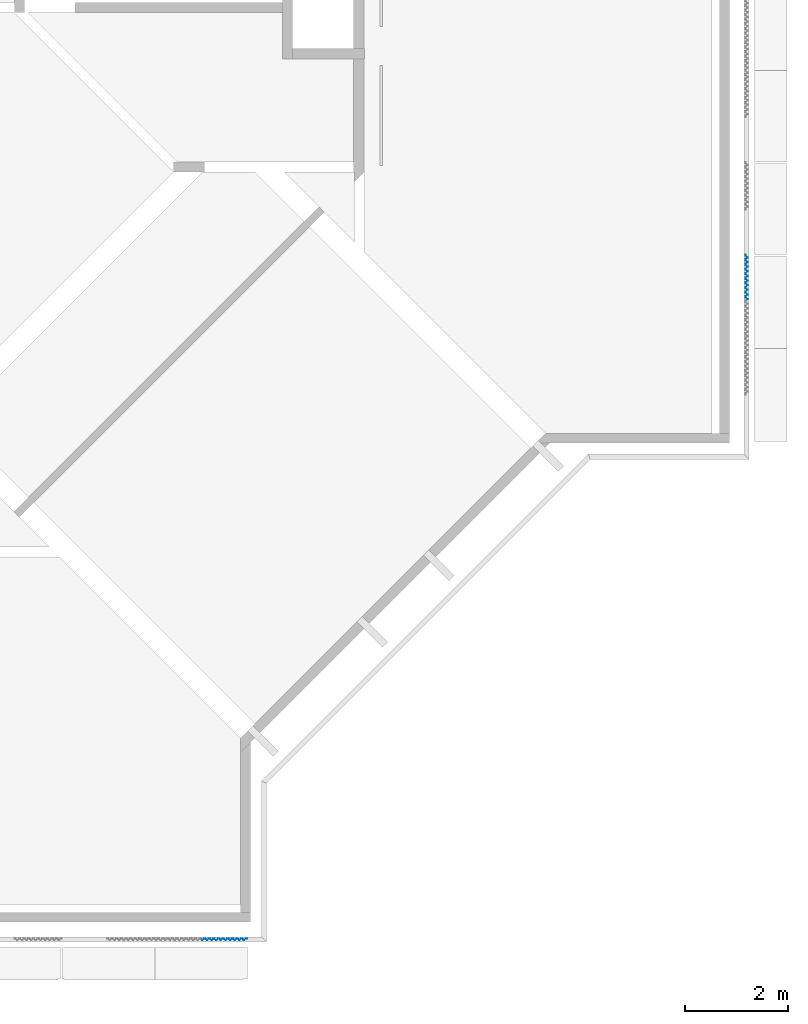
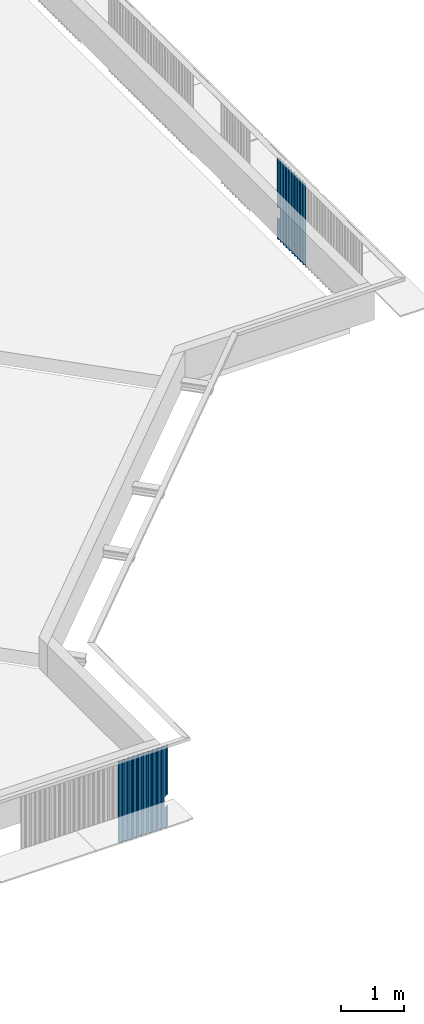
# One storey, part 26 of 37: 2 walls.
"""IFC4X3_ADD2 building model written with IfcOpenShell, lengths in millimetres."""

from ifc_helpers import new_model, si_unit, direction, frame, origin_with_axes, place, context, subcontext, project, spatial, polygons, element, save


model = new_model("IFC4X3_ADD2")

# Units and contexts
model_context = context("Model", 3, precision=1e-05, world=origin_with_axes(), true_north=direction((0.0, 1.0)))
body_context = subcontext(model_context, "Body", "Model", "MODEL_VIEW")
ifc_project = project(units=[si_unit("LENGTHUNIT", "METRE", prefix="MILLI"), si_unit("AREAUNIT", "SQUARE_METRE"), si_unit("VOLUMEUNIT", "CUBIC_METRE"), si_unit("PLANEANGLEUNIT", "RADIAN"), si_unit("TIMEUNIT", "SECOND"), si_unit("MASSUNIT", "GRAM")], contexts=[model_context])

# Site, building, storey
site_placement = place(None, origin_with_axes())
site = spatial("IfcSite", under=ifc_project, at=site_placement, Name="Site", CompositionType="ELEMENT")
building_placement = place(site_placement, origin_with_axes())
building = spatial("IfcBuilding", under=site, at=building_placement, Name="IFC Building Story")
storey_placement = place(building_placement, frame((0.0, 0.0, 14400.0), z_axis=(0.0, 0.0, 1.0), x_axis=(1.0, 0.0, 0.0)))
storey = spatial("IfcBuildingStorey", under=building, at=storey_placement, Name="040", Elevation=14400.0)

# Walls
wall_1_placement = place(storey_placement, frame((0.0, 0.0, -14400.0), z_axis=(0.0, 0.0, 1.0), x_axis=(1.0, 0.0, 0.0)))
element("IfcWall", 1, at=wall_1_placement, inside=storey, Name="BB_07.10_Gevelbekleding_PuntProfiel, 900 mm, console rechts_GMO:900 x 1600 mm", ObjectType="BB_07.10_Gevelbekleding_PuntProfiel, 900 mm, console rechts_GMO:900 x 1600 mm", PredefinedType="NOTDEFINED", context=body_context, shape_type="Tessellation", body=[
    polygons([(435.0000000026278, 12820.00000000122, 14060.0), (433.5857864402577, 12820.00000000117, 14060.0), (448.5857864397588, 12835.0000000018, 14060.0), (415.0000000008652, 12868.58578643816, 14060.0), (415.0000000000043, 12891.41421356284, 14060.0), (416.000000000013, 12891.0000000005, 14060.0), (416.0000000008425, 12869.00000000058, 14060.0), (450.0000000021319, 12835.00000000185, 14060.0), (435.0000000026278, 12820.00000000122, 13860.0), (433.5857864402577, 12820.00000000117, 13860.0), (450.0000000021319, 12835.00000000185, 13860.0), (416.0000000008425, 12869.00000000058, 13860.0), (416.0000000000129, 12891.0000000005, 13860.0), (415.0000000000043, 12891.41421356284, 13860.0), (415.0000000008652, 12868.58578643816, 13860.0), (448.5857864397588, 12835.0000000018, 13860.0), (416.0000000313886, 12059.00000000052, 15040.0), (416.000000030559, 12081.00000000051, 15040.0), (450.000000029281, 12115.00000000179, 15040.0), (416.0000000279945, 12149.00000000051, 15040.0), (416.0000000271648, 12171.00000000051, 15040.0), (450.0000000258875, 12205.0000000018, 15040.0), (416.0000000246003, 12239.00000000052, 15040.0), (416.0000000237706, 12261.00000000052, 15040.0), (450.0000000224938, 12295.00000000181, 15040.0), (416.0000000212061, 12329.00000000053, 15040.0), (416.0000000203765, 12351.00000000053, 15040.0), (450.0000000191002, 12385.00000000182, 15040.0), (416.0000000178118, 12419.00000000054, 15040.0), (416.0000000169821, 12441.00000000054, 15040.0), (450.0000000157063, 12475.00000000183, 15040.0), (416.0000000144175, 12509.00000000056, 15040.0), (416.0000000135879, 12531.00000000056, 15040.0), (450.0000000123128, 12565.00000000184, 15040.0), (416.0000000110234, 12599.00000000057, 15040.0), (416.0000000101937, 12621.00000000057, 15040.0), (450.0000000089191, 12655.00000000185, 15040.0), (416.0000000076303, 12689.00000000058, 15040.0), (416.0000000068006, 12711.00000000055, 15040.0), (450.0000000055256, 12745.00000000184, 15040.0), (416.0000000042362, 12779.00000000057, 15040.0), (416.0000000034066, 12801.00000000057, 15040.0), (450.000000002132, 12835.00000000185, 15040.0), (416.0000000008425, 12869.00000000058, 15040.0), (416.000000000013, 12891.0000000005, 15040.0), (415.0000000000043, 12891.41421356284, 15040.0), (415.0000000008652, 12868.58578643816, 15040.0), (448.5857864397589, 12835.0000000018, 15040.0), (415.0000000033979, 12801.4142135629, 15040.0), (415.0000000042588, 12778.58578643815, 15040.0), (448.5857864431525, 12745.00000000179, 15040.0), (415.0000000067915, 12711.41421356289, 15040.0), (415.0000000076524, 12688.58578643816, 15040.0), (448.5857864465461, 12655.0000000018, 15040.0), (415.0000000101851, 12621.4142135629, 15040.0), (415.000000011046, 12598.58578643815, 15040.0), (448.5857864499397, 12565.00000000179, 15040.0), (415.0000000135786, 12531.41421356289, 15040.0), (415.0000000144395, 12508.58578643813, 15040.0), (448.5857864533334, 12475.00000000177, 15040.0), (415.0000000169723, 12441.41421356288, 15040.0), (415.0000000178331, 12418.58578643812, 15040.0), (448.5857864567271, 12385.00000000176, 15040.0), (415.000000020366, 12351.41421356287, 15040.0), (415.0000000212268, 12328.58578643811, 15040.0), (448.5857864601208, 12295.00000000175, 15040.0), (415.0000000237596, 12261.41421356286, 15040.0), (415.0000000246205, 12238.58578643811, 15040.0), (448.5857864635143, 12205.00000000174, 15040.0), (415.0000000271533, 12171.41421356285, 15040.0), (415.000000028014, 12148.5857864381, 15040.0), (448.585786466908, 12115.00000000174, 15040.0), (415.0000000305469, 12081.41421356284, 15040.0), (415.0000000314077, 12058.5857864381, 15040.0), (448.5857864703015, 12025.00000000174, 15040.0), (415.0000000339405, 11991.41421356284, 15040.0), (415.0000000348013, 11968.5857864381, 15040.0), (416.0000000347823, 11969.00000000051, 15040.0), (416.0000000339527, 11991.00000000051, 15040.0), (450.0000000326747, 12025.00000000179, 15040.0), (416.0000000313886, 12059.00000000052, 13440.0), (450.0000000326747, 12025.00000000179, 13440.0), (416.0000000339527, 11991.00000000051, 13440.0), (416.0000000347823, 11969.00000000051, 13440.0), (415.0000000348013, 11968.5857864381, 13440.0), (415.0000000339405, 11991.41421356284, 13440.0), (448.5857864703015, 12025.00000000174, 13440.0), (415.0000000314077, 12058.5857864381, 13440.0), (415.0000000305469, 12081.41421356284, 13440.0), (448.585786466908, 12115.00000000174, 13440.0), (415.000000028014, 12148.5857864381, 13440.0), (415.0000000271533, 12171.41421356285, 13440.0), (448.5857864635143, 12205.00000000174, 13440.0), (415.0000000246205, 12238.58578643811, 13440.0), (415.0000000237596, 12261.41421356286, 13440.0), (448.5857864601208, 12295.00000000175, 13440.0), (415.0000000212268, 12328.58578643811, 13440.0), (415.000000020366, 12351.41421356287, 13440.0), (448.5857864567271, 12385.00000000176, 13440.0), (415.0000000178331, 12418.58578643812, 13440.0), (415.0000000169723, 12441.41421356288, 13440.0), (448.5857864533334, 12475.00000000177, 13440.0), (415.0000000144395, 12508.58578643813, 13440.0), (415.0000000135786, 12531.41421356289, 13440.0), (448.5857864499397, 12565.00000000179, 13440.0), (415.000000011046, 12598.58578643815, 13440.0), (415.0000000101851, 12621.4142135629, 13440.0), (448.5857864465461, 12655.0000000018, 13440.0), (415.0000000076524, 12688.58578643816, 13440.0), (415.0000000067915, 12711.41421356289, 13440.0), (448.5857864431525, 12745.00000000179, 13440.0), (415.0000000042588, 12778.58578643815, 13440.0), (415.0000000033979, 12801.4142135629, 13440.0), (448.5857864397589, 12835.0000000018, 13440.0), (415.0000000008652, 12868.58578643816, 13440.0), (415.0000000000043, 12891.41421356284, 13440.0), (416.000000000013, 12891.0000000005, 13440.0), (416.0000000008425, 12869.00000000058, 13440.0), (450.000000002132, 12835.00000000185, 13440.0), (416.0000000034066, 12801.00000000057, 13440.0), (416.0000000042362, 12779.00000000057, 13440.0), (450.0000000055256, 12745.00000000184, 13440.0), (416.0000000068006, 12711.00000000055, 13440.0), (416.0000000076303, 12689.00000000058, 13440.0), (450.0000000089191, 12655.00000000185, 13440.0), (416.0000000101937, 12621.00000000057, 13440.0), (416.0000000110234, 12599.00000000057, 13440.0), (450.0000000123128, 12565.00000000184, 13440.0), (416.0000000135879, 12531.00000000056, 13440.0), (416.0000000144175, 12509.00000000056, 13440.0), (450.0000000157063, 12475.00000000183, 13440.0), (416.0000000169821, 12441.00000000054, 13440.0), (416.0000000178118, 12419.00000000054, 13440.0), (450.0000000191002, 12385.00000000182, 13440.0), (416.0000000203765, 12351.00000000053, 13440.0), (416.0000000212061, 12329.00000000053, 13440.0), (450.0000000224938, 12295.00000000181, 13440.0), (416.0000000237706, 12261.00000000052, 13440.0), (416.0000000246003, 12239.00000000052, 13440.0), (450.0000000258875, 12205.0000000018, 13440.0), (416.0000000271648, 12171.00000000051, 13440.0), (416.0000000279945, 12149.00000000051, 13440.0), (450.000000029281, 12115.00000000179, 13440.0), (416.000000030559, 12081.00000000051, 13440.0)], [[[7, 8, 3]], [[7, 3, 4]], [[4, 5, 6]], [[4, 6, 7]], [[8, 1, 2]], [[8, 2, 3]], [[2, 1, 9, 10]], [[12, 13, 14]], [[12, 14, 15]], [[16, 10, 9]], [[16, 9, 11]], [[11, 12, 15]], [[11, 15, 16]], [[44, 45, 46]], [[44, 46, 47]], [[48, 49, 42]], [[48, 42, 43]], [[43, 44, 47]], [[43, 47, 48]], [[49, 50, 41]], [[49, 41, 42]], [[51, 52, 39]], [[51, 39, 40]], [[40, 41, 50]], [[40, 50, 51]], [[52, 53, 38]], [[52, 38, 39]], [[54, 55, 36]], [[54, 36, 37]], [[37, 38, 53]], [[37, 53, 54]], [[55, 56, 35]], [[55, 35, 36]], [[57, 58, 33]], [[57, 33, 34]], [[34, 35, 56]], [[34, 56, 57]], [[58, 59, 32]], [[58, 32, 33]], [[60, 61, 30]], [[60, 30, 31]], [[31, 32, 59]], [[31, 59, 60]], [[61, 62, 29]], [[61, 29, 30]], [[63, 64, 27]], [[63, 27, 28]], [[28, 29, 62]], [[28, 62, 63]], [[64, 65, 26]], [[64, 26, 27]], [[66, 67, 24]], [[66, 24, 25]], [[25, 26, 65]], [[25, 65, 66]], [[67, 68, 23]], [[67, 23, 24]], [[69, 70, 21]], [[69, 21, 22]], [[22, 23, 68]], [[22, 68, 69]], [[70, 71, 20]], [[70, 20, 21]], [[72, 73, 18]], [[72, 18, 19]], [[19, 20, 71]], [[19, 71, 72]], [[73, 74, 17]], [[73, 17, 18]], [[79, 80, 75]], [[79, 75, 76]], [[76, 77, 78]], [[76, 78, 79]], [[80, 17, 74]], [[80, 74, 75]], [[83, 84, 85]], [[83, 85, 86]], [[87, 88, 81]], [[87, 81, 82]], [[82, 83, 86]], [[82, 86, 87]], [[118, 119, 114]], [[118, 114, 115]], [[115, 116, 117]], [[115, 117, 118]], [[121, 122, 111]], [[121, 111, 112]], [[112, 113, 120]], [[112, 120, 121]], [[113, 114, 119]], [[113, 119, 120]], [[124, 125, 108]], [[124, 108, 109]], [[109, 110, 123]], [[109, 123, 124]], [[110, 111, 122]], [[110, 122, 123]], [[127, 128, 105]], [[127, 105, 106]], [[106, 107, 126]], [[106, 126, 127]], [[107, 108, 125]], [[107, 125, 126]], [[130, 131, 102]], [[130, 102, 103]], [[103, 104, 129]], [[103, 129, 130]], [[104, 105, 128]], [[104, 128, 129]], [[133, 134, 99]], [[133, 99, 100]], [[100, 101, 132]], [[100, 132, 133]], [[101, 102, 131]], [[101, 131, 132]], [[136, 137, 96]], [[136, 96, 97]], [[97, 98, 135]], [[97, 135, 136]], [[98, 99, 134]], [[98, 134, 135]], [[139, 140, 93]], [[139, 93, 94]], [[94, 95, 138]], [[94, 138, 139]], [[95, 96, 137]], [[95, 137, 138]], [[142, 143, 90]], [[142, 90, 91]], [[91, 92, 141]], [[91, 141, 142]], [[92, 93, 140]], [[92, 140, 141]], [[144, 81, 88]], [[144, 88, 89]], [[89, 90, 143]], [[89, 143, 144]], [[18, 17, 81, 144]], [[19, 18, 144, 143]], [[20, 19, 143, 142]], [[21, 20, 142, 141]], [[22, 21, 141, 140]], [[23, 22, 140, 139]], [[24, 23, 139, 138]], [[25, 24, 138, 137]], [[26, 25, 137, 136]], [[27, 26, 136, 135]], [[28, 27, 135, 134]], [[29, 28, 134, 133]], [[30, 29, 133, 132]], [[31, 30, 132, 131]], [[32, 31, 131, 130]], [[33, 32, 130, 129]], [[34, 33, 129, 128]], [[35, 34, 128, 127]], [[36, 35, 127, 126]], [[37, 36, 126, 125]], [[38, 37, 125, 124]], [[54, 53, 109, 108]], [[55, 54, 108, 107]], [[56, 55, 107, 106]], [[57, 56, 106, 105]], [[58, 57, 105, 104]], [[59, 58, 104, 103]], [[60, 59, 103, 102]], [[61, 60, 102, 101]], [[62, 61, 101, 100]], [[63, 62, 100, 99]], [[64, 63, 99, 98]], [[65, 64, 98, 97]], [[66, 65, 97, 96]], [[67, 66, 96, 95]], [[68, 67, 95, 94]], [[69, 68, 94, 93]], [[70, 69, 93, 92]], [[71, 70, 92, 91]], [[72, 71, 91, 90]], [[73, 72, 90, 89]], [[74, 73, 89, 88]], [[80, 79, 83, 82]], [[17, 80, 82, 81]], [[39, 38, 124, 123]], [[40, 39, 123, 122]], [[41, 40, 122, 121]], [[42, 41, 121, 120]], [[1, 8, 43]], [[1, 43, 42]], [[42, 9, 1]], [[42, 120, 9]], [[120, 119, 11]], [[120, 11, 9]], [[44, 43, 8, 7]], [[45, 44, 7, 6]], [[47, 46, 5, 4]], [[48, 47, 4, 3]], [[10, 16, 114]], [[10, 114, 113]], [[113, 2, 10]], [[2, 113, 49]], [[49, 48, 2]], [[48, 3, 2]], [[50, 49, 113, 112]], [[51, 50, 112, 111]], [[52, 51, 111, 110]], [[53, 52, 110, 109]], [[75, 74, 88, 87]], [[76, 75, 87, 86]], [[46, 45, 6, 5]], [[77, 76, 86, 85]], [[78, 77, 85, 84]], [[79, 78, 84, 83]], [[117, 116, 14, 13]], [[115, 114, 16, 15]], [[116, 115, 15, 14]], [[118, 117, 13, 12]], [[119, 118, 12, 11]]]),
])
wall_2_placement = place(storey_placement, frame((0.0, 0.0, -14400.0), z_axis=(0.0, 0.0, 1.0), x_axis=(1.0, 0.0, 0.0)))
element("IfcWall", 2, at=wall_2_placement, inside=storey, Name="BB_07.10_Gevelbekleding_PuntProfiel, 900 mm, console rechts_GMO:900 x 1600 mm", ObjectType="BB_07.10_Gevelbekleding_PuntProfiel, 900 mm, console rechts_GMO:900 x 1600 mm", PredefinedType="NOTDEFINED", context=body_context, shape_type="Tessellation", body=[
    polygons([(-9360.000000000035, -434.9999999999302, 14060.0), (-9360.000000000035, -433.5857864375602, 14060.0), (-9344.999999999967, -448.585786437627, 14060.0), (-9311.414213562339, -414.9999999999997, 14060.0), (-9288.585786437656, -414.9999999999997, 14060.0), (-9289.000000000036, -415.9999999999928, 14060.0), (-9310.999999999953, -415.9999999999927, 14060.0), (-9344.999999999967, -449.9999999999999, 14060.0), (-9360.000000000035, -434.9999999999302, 13860.0), (-9360.000000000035, -433.5857864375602, 13860.0), (-9344.999999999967, -449.9999999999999, 13860.0), (-9310.999999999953, -415.9999999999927, 13860.0), (-9289.000000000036, -415.9999999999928, 13860.0), (-9288.585786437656, -414.9999999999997, 13860.0), (-9311.414213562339, -414.9999999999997, 13860.0), (-9344.999999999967, -448.585786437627, 13860.0), (-10121.00000000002, -415.9999999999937, 15040.0), (-10099.00000000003, -415.9999999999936, 15040.0), (-10065.00000000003, -449.9999999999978, 15040.0), (-10031.00000000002, -415.9999999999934, 15040.0), (-10009.00000000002, -415.9999999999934, 15040.0), (-9975.000000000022, -449.9999999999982, 15040.0), (-9941.000000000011, -415.9999999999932, 15040.0), (-9919.000000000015, -415.9999999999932, 15040.0), (-9885.000000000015, -449.9999999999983, 15040.0), (-9851.000000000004, -415.9999999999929, 15040.0), (-9829.000000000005, -415.9999999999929, 15040.0), (-9795.000000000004, -449.9999999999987, 15040.0), (-9760.99999999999, -415.9999999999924, 15040.0), (-9738.999999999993, -415.9999999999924, 15040.0), (-9704.999999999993, -449.9999999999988, 15040.0), (-9670.99999999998, -415.9999999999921, 15040.0), (-9648.999999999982, -415.9999999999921, 15040.0), (-9614.99999999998, -449.9999999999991, 15040.0), (-9580.999999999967, -415.9999999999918, 15040.0), (-9558.999999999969, -415.9999999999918, 15040.0), (-9524.999999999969, -449.9999999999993, 15040.0), (-9490.999999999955, -415.9999999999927, 15040.0), (-9468.999999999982, -415.9999999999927, 15040.0), (-9434.999999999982, -449.9999999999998, 15040.0), (-9400.999999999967, -415.9999999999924, 15040.0), (-9378.999999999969, -415.9999999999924, 15040.0), (-9344.999999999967, -449.9999999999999, 15040.0), (-9310.999999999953, -415.9999999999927, 15040.0), (-9289.000000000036, -415.9999999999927, 15040.0), (-9288.585786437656, -414.9999999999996, 15040.0), (-9311.414213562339, -414.9999999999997, 15040.0), (-9344.999999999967, -448.585786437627, 15040.0), (-9378.585786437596, -414.9999999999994, 15040.0), (-9401.414213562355, -414.9999999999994, 15040.0), (-9434.999999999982, -448.5857864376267, 15040.0), (-9468.58578643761, -414.9999999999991, 15040.0), (-9491.414213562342, -414.9999999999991, 15040.0), (-9524.999999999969, -448.5857864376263, 15040.0), (-9558.585786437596, -414.9999999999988, 15040.0), (-9581.414213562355, -414.9999999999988, 15040.0), (-9614.99999999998, -448.5857864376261, 15040.0), (-9648.585786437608, -414.9999999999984, 15040.0), (-9671.414213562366, -414.9999999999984, 15040.0), (-9704.999999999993, -448.5857864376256, 15040.0), (-9738.58578643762, -414.9999999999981, 15040.0), (-9761.414213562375, -414.9999999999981, 15040.0), (-9795.000000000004, -448.5857864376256, 15040.0), (-9828.58578643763, -414.999999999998, 15040.0), (-9851.414213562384, -414.999999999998, 15040.0), (-9885.000000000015, -448.5857864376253, 15040.0), (-9918.58578643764, -414.9999999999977, 15040.0), (-9941.414213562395, -414.9999999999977, 15040.0), (-9975.000000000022, -448.5857864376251, 15040.0), (-10008.58578643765, -414.9999999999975, 15040.0), (-10031.4142135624, -414.9999999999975, 15040.0), (-10065.00000000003, -448.5857864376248, 15040.0), (-10098.58578643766, -414.9999999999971, 15040.0), (-10121.4142135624, -414.9999999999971, 15040.0), (-10155.00000000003, -448.5857864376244, 15040.0), (-10188.58578643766, -414.9999999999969, 15040.0), (-10211.4142135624, -414.9999999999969, 15040.0), (-10211.00000000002, -415.9999999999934, 15040.0), (-10189.00000000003, -415.9999999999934, 15040.0), (-10155.00000000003, -449.9999999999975, 15040.0), (-10121.00000000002, -415.9999999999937, 13440.0), (-10155.00000000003, -449.9999999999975, 13440.0), (-10189.00000000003, -415.9999999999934, 13440.0), (-10211.00000000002, -415.9999999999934, 13440.0), (-10211.4142135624, -414.9999999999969, 13440.0), (-10188.58578643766, -414.9999999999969, 13440.0), (-10155.00000000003, -448.5857864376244, 13440.0), (-10121.4142135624, -414.9999999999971, 13440.0), (-10098.58578643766, -414.9999999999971, 13440.0), (-10065.00000000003, -448.5857864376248, 13440.0), (-10031.4142135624, -414.9999999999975, 13440.0), (-10008.58578643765, -414.9999999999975, 13440.0), (-9975.000000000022, -448.5857864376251, 13440.0), (-9941.414213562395, -414.9999999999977, 13440.0), (-9918.58578643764, -414.9999999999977, 13440.0), (-9885.000000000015, -448.5857864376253, 13440.0), (-9851.414213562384, -414.999999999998, 13440.0), (-9828.58578643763, -414.999999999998, 13440.0), (-9795.000000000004, -448.5857864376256, 13440.0), (-9761.414213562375, -414.9999999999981, 13440.0), (-9738.58578643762, -414.9999999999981, 13440.0), (-9704.999999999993, -448.5857864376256, 13440.0), (-9671.414213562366, -414.9999999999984, 13440.0), (-9648.585786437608, -414.9999999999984, 13440.0), (-9614.99999999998, -448.5857864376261, 13440.0), (-9581.414213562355, -414.9999999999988, 13440.0), (-9558.585786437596, -414.9999999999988, 13440.0), (-9524.999999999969, -448.5857864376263, 13440.0), (-9491.414213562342, -414.9999999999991, 13440.0), (-9468.58578643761, -414.9999999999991, 13440.0), (-9434.999999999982, -448.5857864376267, 13440.0), (-9401.414213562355, -414.9999999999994, 13440.0), (-9378.585786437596, -414.9999999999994, 13440.0), (-9344.999999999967, -448.585786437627, 13440.0), (-9311.414213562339, -414.9999999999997, 13440.0), (-9288.585786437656, -414.9999999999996, 13440.0), (-9289.000000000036, -415.9999999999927, 13440.0), (-9310.999999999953, -415.9999999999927, 13440.0), (-9344.999999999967, -449.9999999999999, 13440.0), (-9378.999999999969, -415.9999999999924, 13440.0), (-9400.999999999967, -415.9999999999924, 13440.0), (-9434.999999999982, -449.9999999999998, 13440.0), (-9468.999999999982, -415.9999999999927, 13440.0), (-9490.999999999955, -415.9999999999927, 13440.0), (-9524.999999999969, -449.9999999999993, 13440.0), (-9558.999999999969, -415.9999999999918, 13440.0), (-9580.999999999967, -415.9999999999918, 13440.0), (-9614.99999999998, -449.9999999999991, 13440.0), (-9648.999999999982, -415.9999999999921, 13440.0), (-9670.99999999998, -415.9999999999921, 13440.0), (-9704.999999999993, -449.9999999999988, 13440.0), (-9738.999999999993, -415.9999999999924, 13440.0), (-9760.99999999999, -415.9999999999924, 13440.0), (-9795.000000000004, -449.9999999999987, 13440.0), (-9829.000000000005, -415.9999999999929, 13440.0), (-9851.000000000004, -415.9999999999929, 13440.0), (-9885.000000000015, -449.9999999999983, 13440.0), (-9919.000000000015, -415.9999999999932, 13440.0), (-9941.000000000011, -415.9999999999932, 13440.0), (-9975.000000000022, -449.9999999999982, 13440.0), (-10009.00000000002, -415.9999999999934, 13440.0), (-10031.00000000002, -415.9999999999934, 13440.0), (-10065.00000000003, -449.9999999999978, 13440.0), (-10099.00000000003, -415.9999999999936, 13440.0)], [[[7, 8, 3]], [[7, 3, 4]], [[4, 5, 6]], [[4, 6, 7]], [[8, 1, 2]], [[8, 2, 3]], [[2, 1, 9, 10]], [[12, 13, 14]], [[12, 14, 15]], [[16, 10, 9]], [[16, 9, 11]], [[11, 12, 15]], [[11, 15, 16]], [[44, 45, 46]], [[44, 46, 47]], [[48, 49, 42]], [[48, 42, 43]], [[43, 44, 47]], [[43, 47, 48]], [[49, 50, 41]], [[49, 41, 42]], [[51, 52, 39]], [[51, 39, 40]], [[40, 41, 50]], [[40, 50, 51]], [[52, 53, 38]], [[52, 38, 39]], [[54, 55, 36]], [[54, 36, 37]], [[37, 38, 53]], [[37, 53, 54]], [[55, 56, 35]], [[55, 35, 36]], [[57, 58, 33]], [[57, 33, 34]], [[34, 35, 56]], [[34, 56, 57]], [[58, 59, 32]], [[58, 32, 33]], [[60, 61, 30]], [[60, 30, 31]], [[31, 32, 59]], [[31, 59, 60]], [[61, 62, 29]], [[61, 29, 30]], [[63, 64, 27]], [[63, 27, 28]], [[28, 29, 62]], [[28, 62, 63]], [[64, 65, 26]], [[64, 26, 27]], [[66, 67, 24]], [[66, 24, 25]], [[25, 26, 65]], [[25, 65, 66]], [[67, 68, 23]], [[67, 23, 24]], [[69, 70, 21]], [[69, 21, 22]], [[22, 23, 68]], [[22, 68, 69]], [[70, 71, 20]], [[70, 20, 21]], [[72, 73, 18]], [[72, 18, 19]], [[19, 20, 71]], [[19, 71, 72]], [[73, 74, 17]], [[73, 17, 18]], [[79, 80, 75]], [[79, 75, 76]], [[76, 77, 78]], [[76, 78, 79]], [[80, 17, 74]], [[80, 74, 75]], [[83, 84, 85]], [[83, 85, 86]], [[87, 88, 81]], [[87, 81, 82]], [[82, 83, 86]], [[82, 86, 87]], [[118, 119, 114]], [[118, 114, 115]], [[115, 116, 117]], [[115, 117, 118]], [[121, 122, 111]], [[121, 111, 112]], [[112, 113, 120]], [[112, 120, 121]], [[113, 114, 119]], [[113, 119, 120]], [[124, 125, 108]], [[124, 108, 109]], [[109, 110, 123]], [[109, 123, 124]], [[110, 111, 122]], [[110, 122, 123]], [[127, 128, 105]], [[127, 105, 106]], [[106, 107, 126]], [[106, 126, 127]], [[107, 108, 125]], [[107, 125, 126]], [[130, 131, 102]], [[130, 102, 103]], [[103, 104, 129]], [[103, 129, 130]], [[104, 105, 128]], [[104, 128, 129]], [[133, 134, 99]], [[133, 99, 100]], [[100, 101, 132]], [[100, 132, 133]], [[101, 102, 131]], [[101, 131, 132]], [[136, 137, 96]], [[136, 96, 97]], [[97, 98, 135]], [[97, 135, 136]], [[98, 99, 134]], [[98, 134, 135]], [[139, 140, 93]], [[139, 93, 94]], [[94, 95, 138]], [[94, 138, 139]], [[95, 96, 137]], [[95, 137, 138]], [[142, 143, 90]], [[142, 90, 91]], [[91, 92, 141]], [[91, 141, 142]], [[92, 93, 140]], [[92, 140, 141]], [[144, 81, 88]], [[144, 88, 89]], [[89, 90, 143]], [[89, 143, 144]], [[18, 17, 81, 144]], [[19, 18, 144, 143]], [[20, 19, 143, 142]], [[21, 20, 142, 141]], [[22, 21, 141, 140]], [[23, 22, 140, 139]], [[24, 23, 139, 138]], [[25, 24, 138, 137]], [[26, 25, 137, 136]], [[27, 26, 136, 135]], [[28, 27, 135, 134]], [[29, 28, 134, 133]], [[30, 29, 133, 132]], [[31, 30, 132, 131]], [[32, 31, 131, 130]], [[33, 32, 130, 129]], [[34, 33, 129, 128]], [[35, 34, 128, 127]], [[36, 35, 127, 126]], [[37, 36, 126, 125]], [[38, 37, 125, 124]], [[54, 53, 109, 108]], [[55, 54, 108, 107]], [[56, 55, 107, 106]], [[57, 56, 106, 105]], [[58, 57, 105, 104]], [[59, 58, 104, 103]], [[60, 59, 103, 102]], [[61, 60, 102, 101]], [[62, 61, 101, 100]], [[63, 62, 100, 99]], [[64, 63, 99, 98]], [[65, 64, 98, 97]], [[66, 65, 97, 96]], [[67, 66, 96, 95]], [[68, 67, 95, 94]], [[69, 68, 94, 93]], [[70, 69, 93, 92]], [[71, 70, 92, 91]], [[72, 71, 91, 90]], [[73, 72, 90, 89]], [[74, 73, 89, 88]], [[80, 79, 83, 82]], [[17, 80, 82, 81]], [[39, 38, 124, 123]], [[40, 39, 123, 122]], [[41, 40, 122, 121]], [[42, 41, 121, 120]], [[1, 8, 43]], [[1, 43, 42]], [[42, 9, 1]], [[42, 120, 9]], [[120, 119, 11]], [[120, 11, 9]], [[44, 43, 8, 7]], [[45, 44, 7, 6]], [[47, 46, 5, 4]], [[48, 47, 4, 3]], [[10, 16, 114]], [[10, 114, 113]], [[113, 2, 10]], [[2, 113, 49]], [[49, 48, 2]], [[48, 3, 2]], [[50, 49, 113, 112]], [[51, 50, 112, 111]], [[52, 51, 111, 110]], [[53, 52, 110, 109]], [[75, 74, 88, 87]], [[76, 75, 87, 86]], [[46, 45, 6, 5]], [[77, 76, 86, 85]], [[78, 77, 85, 84]], [[79, 78, 84, 83]], [[117, 116, 14, 13]], [[115, 114, 16, 15]], [[116, 115, 15, 14]], [[118, 117, 13, 12]], [[119, 118, 12, 11]]]),
])

save(model, "model.ifc")
